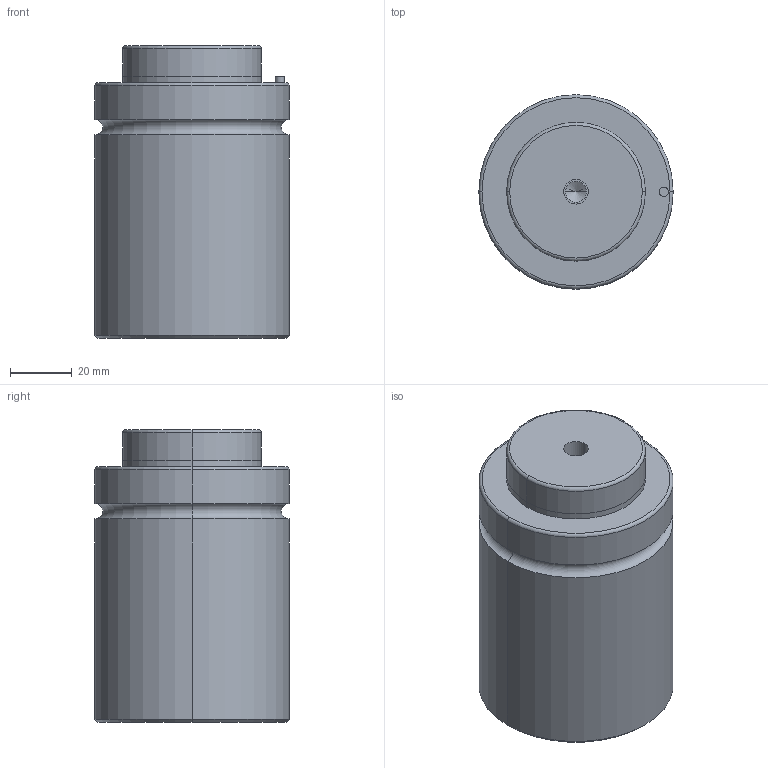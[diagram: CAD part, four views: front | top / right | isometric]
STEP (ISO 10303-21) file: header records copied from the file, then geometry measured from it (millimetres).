
FILE_DESCRIPTION(/* description */ (''),/* implementation_level */ '2;1');
FILE_NAME(/* name */ '3d_gsm63-10_03902_r00.stp',/* time_stamp */ '2011-01-10T14:15:15+09:00',/* author */ ('MISUMI'),/* organization */ (''),/* preprocessor_version */ 'ST-DEVELOPER v11',/* originating_system */ 'UGS - NX 5.0',/* authorisation */ '');
FILE_SCHEMA (('CONFIG_CONTROL_DESIGN'));
Length unit declared in the file: millimetre
Products named in the file (1): 3d_gsm63-10_03902_r00
Bounding box: 63 x 63 x 95 mm (x, y, z)
Volume: 272910.7 mm3; surface area: 26042.8 mm2
Topology: 1 solids, 1 shells, 50 faces, 106 edges, 60 vertices
Faces by surface type: cylinder 26, cone 10, plane 8, torus 6
Entity records: 1382 total; most frequent: DIRECTION 262, CARTESIAN_POINT 209, ORIENTED_EDGE 196, AXIS2_PLACEMENT_3D 113, EDGE_CURVE 98, CIRCLE 62, EDGE_LOOP 60, VERTEX_POINT 60
